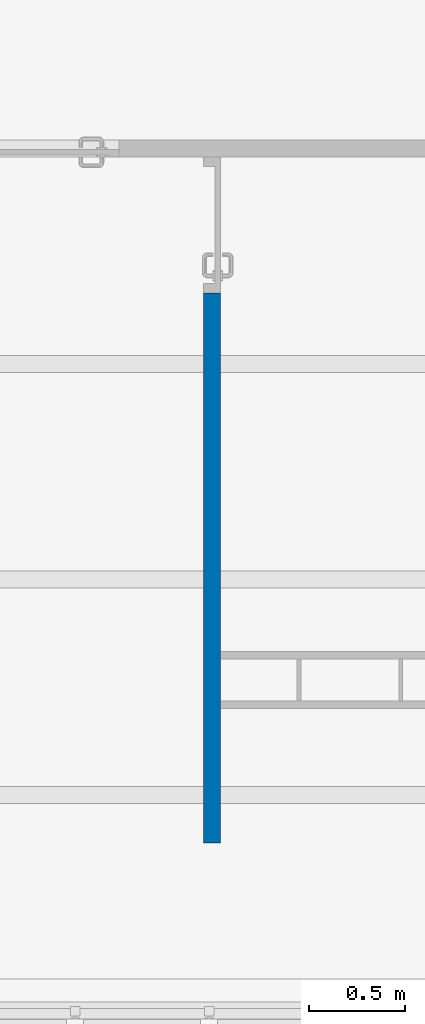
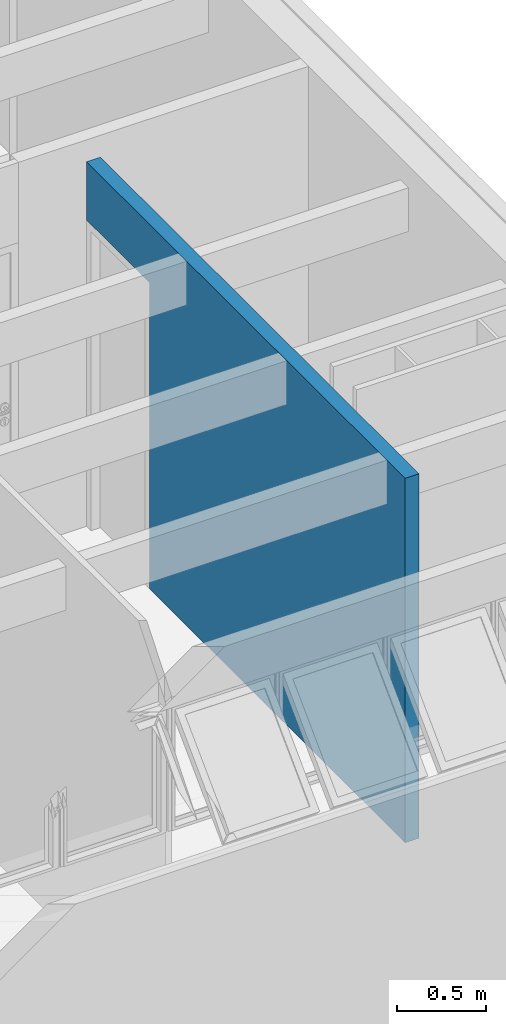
# One storey, part 25 of 37: 1 wall, 1 opening.
"""IFC2X3 building model written with IfcOpenShell, lengths in millimetres."""

from ifc_helpers import new_model, entity, si_unit, converted_unit, derived_unit, money_unit, direction, frame, origin_with_axes, origin_2d_with_axis, place, context, subcontext, project, spatial, polyline, rectangle, outline, extrude, material, layer, layer_set, layer_usage, type_object, element, save


model = new_model("IFC2X3")

# Units and contexts
model_context = context("Model", 3, precision=0.01, world=origin_with_axes(), true_north=direction((0.0, 1.0)))
body_context = subcontext(model_context, "Body", "Model", "MODEL_VIEW")
ifc_project = project(units=[si_unit("LENGTHUNIT", "METRE", prefix="MILLI"), si_unit("AREAUNIT", "SQUARE_METRE"), si_unit("VOLUMEUNIT", "CUBIC_METRE"), converted_unit("PLANEANGLEUNIT", "DEGREE", entity("IfcPlaneAngleMeasure", 0.0174532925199), si_unit("PLANEANGLEUNIT", "RADIAN"), dimensions=[0, 0, 0, 0, 0, 0, 0]), money_unit("USD"), converted_unit("TIMEUNIT", "Year", entity("IfcTimeMeasure", 31556926.0), si_unit("TIMEUNIT", "SECOND"), dimensions=[0, 0, 1, 0, 0, 0, 0]), si_unit("MASSUNIT", "GRAM", prefix="KILO"), si_unit("THERMODYNAMICTEMPERATUREUNIT", "DEGREE_CELSIUS"), si_unit("LUMINOUSINTENSITYUNIT", "LUMEN"), si_unit("ENERGYUNIT", "JOULE", prefix="MEGA"), derived_unit("THERMALCONDUCTANCEUNIT", [(si_unit("POWERUNIT", "WATT"), 1), (si_unit("LENGTHUNIT", "METRE"), -1), (si_unit("THERMODYNAMICTEMPERATUREUNIT", "KELVIN"), -1)]), derived_unit("SPECIFICHEATCAPACITYUNIT", [(si_unit("ENERGYUNIT", "JOULE"), 1), (si_unit("MASSUNIT", "GRAM", prefix="KILO"), -1), (si_unit("THERMODYNAMICTEMPERATUREUNIT", "KELVIN"), -1)]), derived_unit("MASSDENSITYUNIT", [(si_unit("MASSUNIT", "GRAM", prefix="KILO"), 1), (si_unit("VOLUMEUNIT", "CUBIC_METRE"), -1)])], contexts=[model_context])

# Site, building, storey
site_placement = place(None, origin_with_axes())
site = spatial("IfcSite", under=ifc_project, at=site_placement, Name="Local", CompositionType="ELEMENT")
building_placement = place(site_placement, origin_with_axes())
building = spatial("IfcBuilding", under=site, at=building_placement, Name="Construção", CompositionType="ELEMENT")
storey_placement = place(building_placement, frame((0.0, 0.0, 5300.0), z_axis=(0.0, 0.0, 1.0), x_axis=(1.0, 0.0, 0.0)))
storey = spatial("IfcBuildingStorey", under=building, at=storey_placement, Name="Terceiro Pavimento", CompositionType="ELEMENT", Elevation=5300.0)

# Wall, opening
ifc_material = material(Name="GENÉRICO - VEDAÇÃO EXTERNA")
ifc_layer = layer(ifc_material, 90.0, ventilated="UNKNOWN")
ifc_layer_set = layer_set([ifc_layer], Name="GENÉRICO - VEDAÇÃO EXTERNA 90")
ifc_layer_usage = layer_usage(ifc_layer_set, "AXIS2", "NEGATIVE", 0.0)
wall_type = type_object("IfcWallType", Name="GENÉRICO - VEDAÇÃO EXTERNA 90", PredefinedType="NOTDEFINED")
wall_placement = place(storey_placement, frame((13040.0, 18814.7804333, 0.0), z_axis=(0.0, 0.0, 1.0), x_axis=(0.0, 1.0, 0.0)))
wall = element("IfcWallStandardCase", 1, at=wall_placement, inside=storey, type_object=wall_type, material=ifc_layer_usage, Name="APTO12-PAREDE-012", context=body_context, shape_type="SweptSolid", body=[
    extrude(outline(polyline([(0.0, -90.0), (3580.0, -90.0), (3580.0, 0.0), (0.0, 0.0), (0.0, -90.0)])), origin_with_axes(), (0.0, 0.0, 1.0), 2500.0),
])
opening_placement = place(wall_placement, frame((3225.0, 0.0, 0.0), z_axis=(0.0, 0.0, 1.0), x_axis=(1.0, 0.0, 0.0)))
element("IfcOpeningElement", 2, at=opening_placement, cuts=wall, Name="APTO12-PORTA-003", context=body_context, shape_type="SweptSolid", body=[
    extrude(rectangle(XDim=710.0, YDim=2100.0, at=origin_2d_with_axis()), frame((0.0, -90.0, 1050.0), z_axis=(0.0, -1.0, 0.0), x_axis=(1.0, 0.0, 0.0)), (0.0, 0.0, -1.0), 270.0),
])

save(model, "model.ifc")
